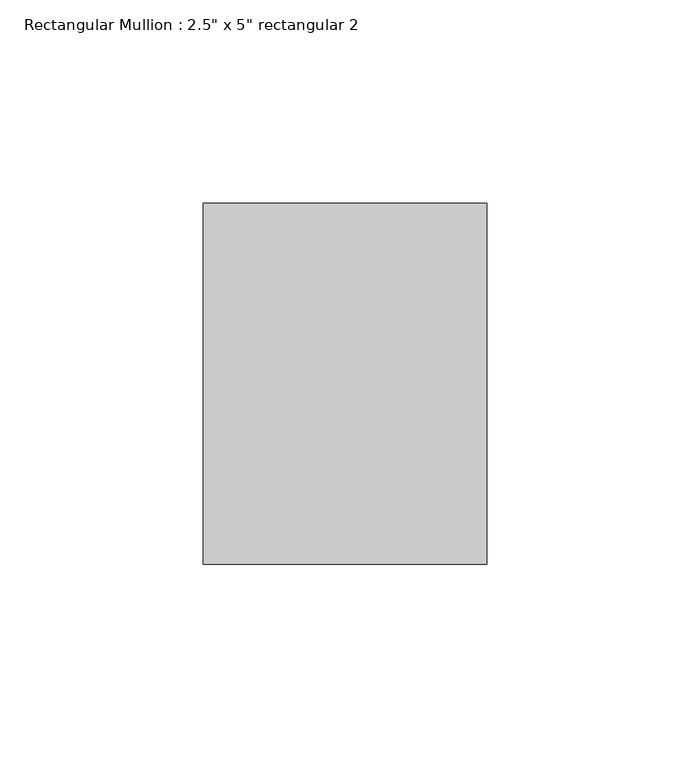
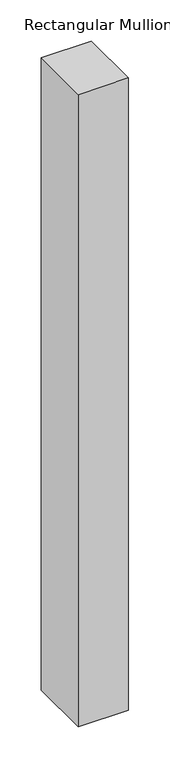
"""IFC4 building model written with IfcOpenShell, lengths in millimetres: member geometry."""

import ifcopenshell
import ifcopenshell.guid

model = None  # the IFC model being written
_history = None  # IfcOwnerHistory: only IFC2X3 demands one
_inside = {}  # id of a spatial element -> (the spatial element, [elements in it])
_under = {}  # id of a project, library or spatial element -> (it, [spatial elements below it])
_declared = {}  # id of a project -> (the project, [libraries it declares])
_typed = {}  # id of a type object -> (the type object, [elements of that type])
_made_of = {}  # id of a material, layer set ... -> (it, [elements and type objects made of it])


def new_model(schema):
    """Start an empty IFC model of exactly this schema.

    Asked for "IFC4X3", IfcOpenShell would pick the latest addendum, in which some entities
    have other attributes; the version numbers below select the first issue.
    IFC2X3 requires an IfcOwnerHistory on every rooted entity: one is made here for all.
    """
    global model, _history
    if schema == "IFC4X3":
        model = ifcopenshell.file(schema_version=(4, 3, 0, 0))
    else:
        model = ifcopenshell.file(schema=schema)
    _inside.clear()
    _under.clear()
    _declared.clear()
    _typed.clear()
    _made_of.clear()
    _history = None
    if model.schema == "IFC2X3":
        org = make("IfcOrganization", Name="unknown")
        user = make(
            "IfcPersonAndOrganization",
            ThePerson=make("IfcPerson", FamilyName="unknown"),
            TheOrganization=org,
        )
        app = make(
            "IfcApplication",
            ApplicationDeveloper=org,
            Version="unknown",
            ApplicationFullName="unknown",
            ApplicationIdentifier="unknown",
        )
        _history = make(
            "IfcOwnerHistory",
            OwningUser=user,
            OwningApplication=app,
            ChangeAction="ADDED",
            CreationDate=0,
        )
    return model


def make(cls, **values):
    """One entity of the class cls with the attributes given. An attribute that is None is left unset."""
    return model.create_entity(
        cls, **{name: value for name, value in values.items() if value is not None}
    )


def rooted(cls, **values):
    """An entity with a GlobalId (a new one), such as an element, a storey or a relation."""
    return make(cls, GlobalId=ifcopenshell.guid.new(), OwnerHistory=_history, **values)


def si_unit(unit_type, name, prefix=None):
    """IfcSIUnit, for example si_unit("LENGTHUNIT", "METRE", prefix="MILLI")."""
    return make("IfcSIUnit", UnitType=unit_type, Prefix=prefix, Name=name)


def assignment(units):
    """IfcUnitAssignment: the units of a project."""
    return None if units is None else make("IfcUnitAssignment", Units=units)


def point(xyz):
    """IfcCartesianPoint."""
    return None if xyz is None else make("IfcCartesianPoint", Coordinates=xyz)


def direction(xyz):
    """IfcDirection."""
    return None if xyz is None else make("IfcDirection", DirectionRatios=xyz)


def frame(location, z_axis=None, x_axis=None):
    """IfcAxis2Placement3D, a coordinate frame: its origin and axes. An axis left out is left unset."""
    return make(
        "IfcAxis2Placement3D",
        Location=point(location),
        Axis=direction(z_axis),
        RefDirection=direction(x_axis),
    )


def origin():
    """The frame at (0, 0, 0) with its axes left unset."""
    return frame((0.0, 0.0, 0.0))


def place(relative_to, where):
    """IfcLocalPlacement: puts the frame where relative to a parent placement (None: the world)."""
    return make(
        "IfcLocalPlacement", PlacementRelTo=relative_to, RelativePlacement=where
    )


def context(
    kind, dimensions, precision=None, world=None, true_north=None, identifier=None
):
    """IfcGeometricRepresentationContext, for example the 3D "Model" context."""
    return make(
        "IfcGeometricRepresentationContext",
        ContextIdentifier=identifier,
        ContextType=kind,
        CoordinateSpaceDimension=dimensions,
        Precision=precision,
        WorldCoordinateSystem=world,
        TrueNorth=true_north,
    )


def project(units=None, contexts=None):
    """IfcProject with its units and contexts."""
    return rooted(
        "IfcProject",
        Name="project",
        RepresentationContexts=contexts,
        UnitsInContext=assignment(units),
    )


def spatial(cls, under=None, at=None, **own):
    """A site, building, storey or space (cls), placed at a placement, below another one or the project."""
    s = rooted(cls, ObjectPlacement=at, **own)
    if under is not None:
        _under.setdefault(under.id(), (under, []))[1].append(s)
    return s


def polyline(points):
    """IfcPolyline through the points."""
    return make("IfcPolyline", Points=[point(p) for p in points])


def outline(outer, holes=None, kind="AREA"):
    """IfcArbitraryClosedProfileDef: a profile drawn as a closed curve; with holes, ...WithVoids."""
    if holes is None:
        return make("IfcArbitraryClosedProfileDef", ProfileType=kind, OuterCurve=outer)
    return make(
        "IfcArbitraryProfileDefWithVoids",
        ProfileType=kind,
        OuterCurve=outer,
        InnerCurves=holes,
    )


def extrude(swept, where, along, depth):
    """IfcExtrudedAreaSolid: the profile swept, set in the frame where, extruded along a direction by depth."""
    return make(
        "IfcExtrudedAreaSolid",
        SweptArea=swept,
        Position=where,
        ExtrudedDirection=direction(along),
        Depth=depth,
    )


def shape(context_of_items, identifier, shape_type, items):
    """IfcShapeRepresentation: the items that make up one representation, for example the "Body"."""
    return make(
        "IfcShapeRepresentation",
        ContextOfItems=context_of_items,
        RepresentationIdentifier=identifier,
        RepresentationType=shape_type,
        Items=items,
    )


def source(mapping_origin, context_of_items, identifier, shape_type, items):
    """IfcRepresentationMap: a shape defined once, which mapped items show again and again."""
    return make(
        "IfcRepresentationMap",
        MappingOrigin=mapping_origin,
        MappedRepresentation=shape(context_of_items, identifier, shape_type, items),
    )


def transform(
    local_origin,
    x_axis=None,
    y_axis=None,
    z_axis=None,
    scale=None,
    scale2=None,
    scale3=None,
    uniform=True,
):
    """IfcCartesianTransformationOperator3D, or its non-uniform kind. x_axis, y_axis, z_axis: its Axis1, 2, 3."""
    if uniform:
        return make(
            "IfcCartesianTransformationOperator3D",
            Axis1=direction(x_axis),
            Axis2=direction(y_axis),
            LocalOrigin=point(local_origin),
            Scale=scale,
            Axis3=direction(z_axis),
        )
    return make(
        "IfcCartesianTransformationOperator3DnonUniform",
        Axis1=direction(x_axis),
        Axis2=direction(y_axis),
        LocalOrigin=point(local_origin),
        Scale=scale,
        Axis3=direction(z_axis),
        Scale2=scale2,
        Scale3=scale3,
    )


def mapped(mapping_source, mapping_target):
    """IfcMappedItem: shows the shape of a source again, moved by a transform."""
    return make(
        "IfcMappedItem", MappingSource=mapping_source, MappingTarget=mapping_target
    )


def made_of(thing, what):
    """Note that an element or type object is made of a material, layer set ...; save() writes the relation."""
    if what is not None:
        _made_of.setdefault(what.id(), (what, []))[1].append(thing)
    return thing


def element(
    cls,
    number,
    at=None,
    inside=None,
    cuts=None,
    type_object=None,
    material=None,
    context=None,
    identifier="Body",
    shape_type=None,
    held_by="IfcProductDefinitionShape",
    body=None,
    shapes=None,
    **own,
):
    """One element of the class cls, such as IfcWall. Its Tag is "e" and its number.

    at: its placement. inside: the storey or other place that contains it. cuts: it is an
    opening in that element (IfcRelVoidsElement). A single representation is given by context,
    identifier, shape_type and body (its items); several are given by shapes. held_by: the class
    of the entity that holds the representations. save() writes the other relations.
    """
    e = rooted(cls, Tag="e%d" % number, ObjectPlacement=at, **own)
    if body is not None:
        shapes = [shape(context, identifier, shape_type, body)]
    if shapes is not None:
        e.Representation = make(held_by, Representations=shapes)
    if inside is not None:
        _inside.setdefault(inside.id(), (inside, []))[1].append(e)
    if cuts is not None:
        rooted(
            "IfcRelVoidsElement", RelatingBuildingElement=cuts, RelatedOpeningElement=e
        )
    if type_object is not None:
        _typed.setdefault(type_object.id(), (type_object, []))[1].append(e)
    return made_of(e, material)


def aggregate(whole, parts):
    """IfcRelAggregates: a whole, such as a stair, and the parts it consists of."""
    return rooted("IfcRelAggregates", RelatingObject=whole, RelatedObjects=parts)


def save(model, path):
    """Write the relations noted so far, then the file.

    IfcRelAggregates (storeys below a building ...), IfcRelContainedInSpatialStructure (elements
    in a storey), IfcRelDefinesByType, IfcRelAssociatesMaterial and IfcRelDeclares: one each for
    every whole, place, type object, material and project.
    """
    for whole, parts in _under.values():
        aggregate(whole, parts)
    for where, things in _inside.values():
        rooted(
            "IfcRelContainedInSpatialStructure",
            RelatedElements=things,
            RelatingStructure=where,
        )
    for kind, things in _typed.values():
        rooted("IfcRelDefinesByType", RelatedObjects=things, RelatingType=kind)
    for what, things in _made_of.values():
        rooted("IfcRelAssociatesMaterial", RelatedObjects=things, RelatingMaterial=what)
    for by, libraries in _declared.values():
        rooted("IfcRelDeclares", RelatingContext=by, RelatedDefinitions=libraries)
    model.write(path)


def member_40fa790f(model_context):
    return source(origin(), model_context, "Body", "SweptSolid", [
        extrude(outline(polyline([(0.0, 44.45), (0.0, -44.45), (-69.85, -44.45), (-69.85, 44.45), (0.0, 44.45)])), frame((0.0, 0.0, -931.7559364), z_axis=(0.0, 0.0, 1.0), x_axis=(1.0, 0.0, 0.0)), (0.0, 0.0, 1.0), 931.7559364),
    ])


if __name__ == "__main__":
    model = new_model("IFC4")
    model_context = context("Model", 3, world=origin())
    ifc_project = project(units=[si_unit("LENGTHUNIT", "METRE", prefix="MILLI")], contexts=[model_context])
    site = spatial("IfcSite", under=ifc_project)
    building = spatial("IfcBuilding", under=site)
    placement = place(None, origin())
    member_shape = member_40fa790f(model_context)
    element("IfcMember", 1, ObjectType="Rectangular Mullion : 2.5\" x 5\" rectangular 2", at=placement, inside=building, context=model_context, shape_type="MappedRepresentation", body=[
        mapped(member_shape, transform((0.0, 0.0, 0.0), x_axis=(1.0, 0.0, 0.0), y_axis=(0.0, 1.0, 0.0), z_axis=(0.0, 0.0, 1.0))),
    ])
    save(model, "model.ifc")
